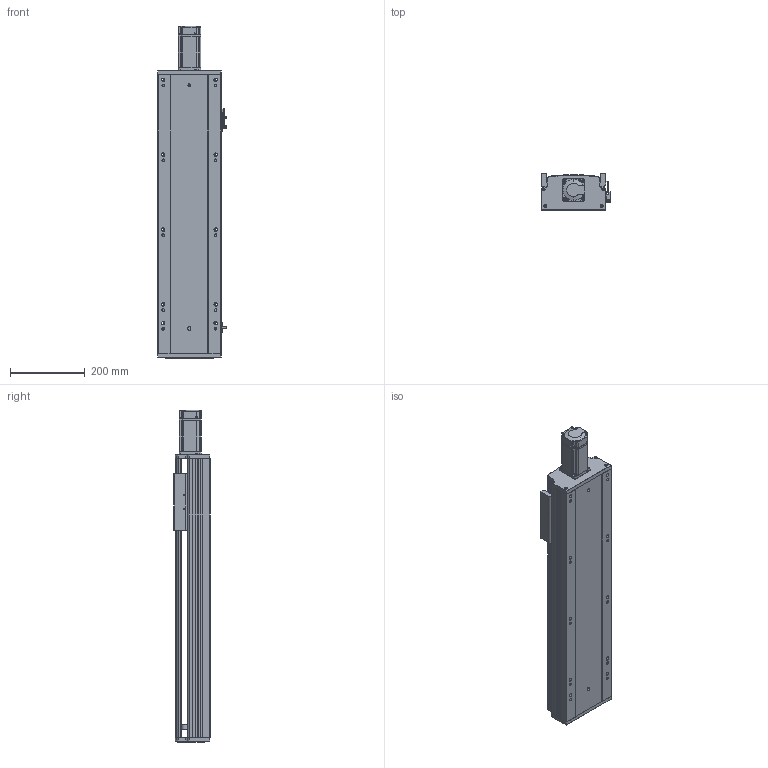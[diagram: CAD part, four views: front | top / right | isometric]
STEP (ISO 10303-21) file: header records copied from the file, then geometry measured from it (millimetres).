
FILE_DESCRIPTION (( 'STEP AP203' ), '1' );
FILE_NAME ('RY170Q-L2020-400-MK.SLDASM_0500.step', '2021-05-31T02:02:26', ( '盈信电脑' ), ( '东莞市道滘镇水果街19号' ), 'SwSTEP 2.0', 'SolidWorks 2016', '' );
FILE_SCHEMA (( 'CONFIG_CONTROL_DESIGN' ));
Length unit declared in the file: millimetre
Products named in the file (12): 侂狟400W侜督萇儂; RY170Q-L2020-400-MK.SLDASM_0500; RY170Q臏賑輸20佪裝蹟譫(FK15); 滅袉蝶18-15; RY170外置感应片(200共用）; RY170ヶ醱裔啣; 覜茼ん672; 滅袉蝶18-10; RY170Q-400倰第裔啣-MK_0500; RY170綴裔啣; RY170Q-400倰第菁釱-MK_0500; 15
Assembly tree (14 placements, depth 3):
  RY170Q-L2020-400-MK.SLDASM_0500
    RY170Q-400倰第菁釱-MK_0500
    RY170Q-400倰第裔啣-MK_0500
    RY170Q臏賑輸20佪裝蹟譫(FK15)
    侂狟400W侜督萇儂
      15
    RY170綴裔啣
    覜茼ん672  x3
    RY170外置感应片(200共用）
    RY170ヶ醱裔啣
    滅袉蝶18-15  x2
    滅袉蝶18-10
Bounding box: 183.7 x 97 x 886.5 mm (x, y, z)
Volume: 4125308.3 mm3; surface area: 1305670.1 mm2
Topology: 13 solids, 13 shells, 2122 faces, 6019 edges, 3897 vertices
Faces by surface type: plane 1185, cylinder 751, cone 157, bspline 29
Entity records: 66306 total; most frequent: CARTESIAN_POINT 14399, ORIENTED_EDGE 10826, DIRECTION 10284, EDGE_CURVE 5413, VERTEX_POINT 3565, LINE 3548, VECTOR 3548, AXIS2_PLACEMENT_3D 3368
